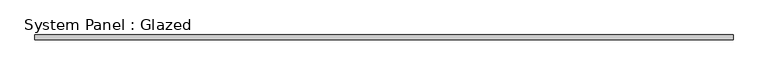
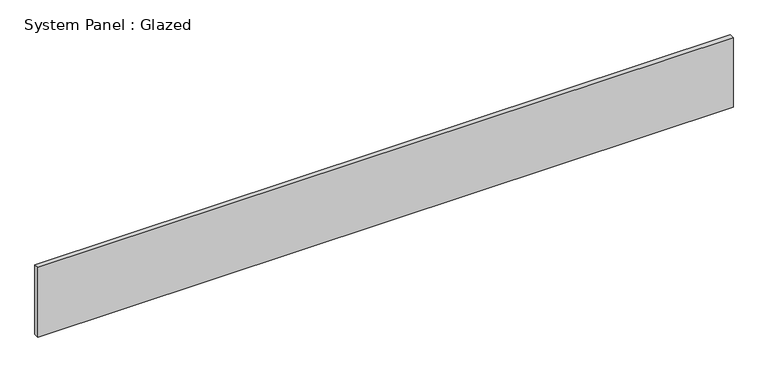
"""IFC4 building model written with IfcOpenShell, lengths in millimetres: plate geometry, System Panel : Glazed."""

from ifc_helpers import new_model, si_unit, origin, origin_with_axes, place, context, project, spatial, polyline, outline, extrude, source, transform, mapped, element, save


def system_panel_glazed_e390192d(model_context):
    return source(origin(), model_context, "Body", "SweptSolid", [
        extrude(outline(polyline([(1765.8241963, -49.5), (-1765.8241963, -49.5), (-1765.8241963, -24.5), (1765.8241963, -24.5), (1765.8241963, -49.5)])), origin_with_axes(), (0.0, 0.0, 1.0), 373.4924443),
    ])


if __name__ == "__main__":
    model = new_model("IFC4")
    model_context = context("Model", 3, world=origin())
    ifc_project = project(units=[si_unit("LENGTHUNIT", "METRE", prefix="MILLI")], contexts=[model_context])
    site = spatial("IfcSite", under=ifc_project)
    building = spatial("IfcBuilding", under=site)
    placement = place(None, origin())
    system_panel_glazed_shape = system_panel_glazed_e390192d(model_context)
    element("IfcPlate", 1, ObjectType="System Panel : Glazed", at=placement, inside=building, context=model_context, shape_type="MappedRepresentation", body=[
        mapped(system_panel_glazed_shape, transform((0.0, 0.0, 0.0), x_axis=(1.0, 0.0, 0.0), y_axis=(0.0, 1.0, 0.0), z_axis=(0.0, 0.0, 1.0))),
    ])
    save(model, "model.ifc")
